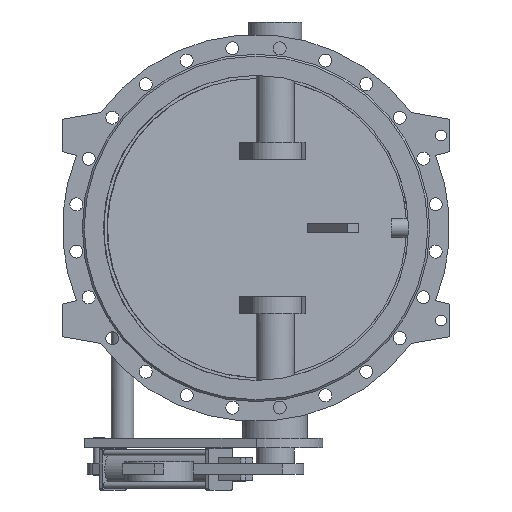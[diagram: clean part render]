
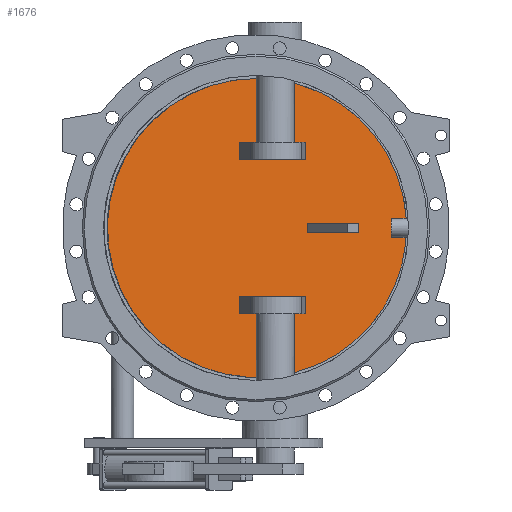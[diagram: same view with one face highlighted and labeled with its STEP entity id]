
A CAD part, front view. The second image highlights one B-rep face of the part: STEP entity #1676.
In plain terms, the highlighted planar face has unit normal (0.131, -0.991, 0).
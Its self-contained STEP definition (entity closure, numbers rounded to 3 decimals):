
#1676=ADVANCED_FACE('',(#3733,#3735,#3737,#3739),#3741,.T.);
#3733=FACE_BOUND('',#3734,.T.);
#3734=EDGE_LOOP('',(#4888));
#3735=FACE_BOUND('',#3736,.T.);
#3736=EDGE_LOOP('',(#4889,#4890,#4891,#4892));
#3737=FACE_BOUND('',#3738,.T.);
#3738=EDGE_LOOP('',(#4893,#4894,#4895,#4896));
#3739=FACE_BOUND('',#3740,.T.);
#3740=EDGE_LOOP('',(#4897,#4898,#4899,#4900));
#3741=PLANE('',#3742);
#3742=AXIS2_PLACEMENT_3D('',#3743,#3744,#3745);
#3743=CARTESIAN_POINT('',(-1.272,9.66,0.));
#3744=DIRECTION('',(0.131,-0.991,0.));
#3745=DIRECTION('',(0.,0.,-1.));
#4888=ORIENTED_EDGE('',*,*,#5404,.T.);
#4889=ORIENTED_EDGE('',*,*,#5421,.F.);
#4890=ORIENTED_EDGE('',*,*,#5422,.F.);
#4891=ORIENTED_EDGE('',*,*,#5423,.F.);
#4892=ORIENTED_EDGE('',*,*,#5424,.F.);
#4893=ORIENTED_EDGE('',*,*,#5425,.F.);
#4894=ORIENTED_EDGE('',*,*,#5426,.F.);
#4895=ORIENTED_EDGE('',*,*,#5427,.F.);
#4896=ORIENTED_EDGE('',*,*,#5428,.F.);
#4897=ORIENTED_EDGE('',*,*,#5429,.F.);
#4898=ORIENTED_EDGE('',*,*,#5430,.F.);
#4899=ORIENTED_EDGE('',*,*,#5431,.F.);
#4900=ORIENTED_EDGE('',*,*,#5432,.F.);
#5404=EDGE_CURVE('',#6178,#6178,#6179,.T.);
#5421=EDGE_CURVE('',#6212,#6213,#6214,.T.);
#5422=EDGE_CURVE('',#6215,#6212,#6216,.F.);
#5423=EDGE_CURVE('',#6217,#6215,#6218,.T.);
#5424=EDGE_CURVE('',#6213,#6217,#6219,.T.);
#5425=EDGE_CURVE('',#6220,#6221,#6222,.F.);
#5426=EDGE_CURVE('',#6223,#6220,#6224,.T.);
#5427=EDGE_CURVE('',#6225,#6223,#6226,.T.);
#5428=EDGE_CURVE('',#6221,#6225,#6227,.T.);
#5429=EDGE_CURVE('',#6228,#6229,#6230,.T.);
#5430=EDGE_CURVE('',#6231,#6228,#6232,.F.);
#5431=EDGE_CURVE('',#6233,#6231,#6234,.F.);
#5432=EDGE_CURVE('',#6229,#6233,#6235,.F.);
#6178=VERTEX_POINT('',#9455);
#6179=B_SPLINE_CURVE_WITH_KNOTS('',3,
(#9456,#9457,#9458,#9459,#9460,#9461,#9462,#9463,#9464,#9465,#9466,#9467,#9468,#9469,
#9470,#9471,#9472,#9473,#9474,#9475,#9476,#9477,#9478,#9479,#9480,#9481,#9482,#9483,
#9484,#9485,#9486,#9487,#9488,#9489,#9490,#9491,#9492,#9493,#9494,#9495,#9496,#9497,
#9498,#9499,#9500,#9501,#9502,#9503,#9504,#9505,#9506),
.UNSPECIFIED.,.T.,.F.,
(4,1,1,1,1,1,1,1,1,1,1,1,1,1,1,1,1,1,1,1,1,1,1,1,1,1,1,1,1,1,1,1,1,1,1,1,1,1,1,1,
1,1,1,1,1,1,1,1,4),
(0.,0.021,0.042,0.063,0.084,
0.105,0.126,0.147,0.168,0.189,
0.211,0.232,0.253,0.274,0.295,
0.316,0.337,0.358,0.379,0.4,
0.421,0.442,0.463,0.484,0.505,
0.527,0.548,0.569,0.59,0.611,
0.632,0.653,0.674,0.695,0.716,
0.737,0.758,0.779,0.8,0.821,
0.842,0.864,0.885,0.906,0.927,
0.948,0.969,0.986,1.),
.UNSPECIFIED.);
#6212=VERTEX_POINT('',#10017);
#6213=VERTEX_POINT('',#10018);
#6214=LINE('',#10019,#10020);
#6215=VERTEX_POINT('',#10022);
#6216=LINE('',#10023,#10024);
#6217=VERTEX_POINT('',#10026);
#6218=LINE('',#10027,#10028);
#6219=LINE('',#10030,#10031);
#6220=VERTEX_POINT('',#10033);
#6221=VERTEX_POINT('',#10034);
#6222=LINE('',#10035,#10036);
#6223=VERTEX_POINT('',#10038);
#6224=LINE('',#10039,#10040);
#6225=VERTEX_POINT('',#10042);
#6226=LINE('',#10043,#10044);
#6227=LINE('',#10046,#10047);
#6228=VERTEX_POINT('',#10049);
#6229=VERTEX_POINT('',#10050);
#6230=LINE('',#10051,#10052);
#6231=VERTEX_POINT('',#10054);
#6232=LINE('',#10055,#10056);
#6233=VERTEX_POINT('',#10058);
#6234=LINE('',#10059,#10060);
#6235=LINE('',#10062,#10063);
#9455=CARTESIAN_POINT('',(2.611,10.171,392.));
#9456=CARTESIAN_POINT('',(2.611,10.171,392.));
#9457=CARTESIAN_POINT('',(-14.616,7.903,392.));
#9458=CARTESIAN_POINT('',(-49.11,3.362,389.724));
#9459=CARTESIAN_POINT('',(-100.015,-3.34,379.519));
#9460=CARTESIAN_POINT('',(-149.198,-9.815,362.666));
#9461=CARTESIAN_POINT('',(-195.753,-15.944,339.455));
#9462=CARTESIAN_POINT('',(-238.826,-21.615,310.311));
#9463=CARTESIAN_POINT('',(-277.674,-26.729,275.739));
#9464=CARTESIAN_POINT('',(-311.615,-31.197,236.349));
#9465=CARTESIAN_POINT('',(-340.058,-34.942,192.829));
#9466=CARTESIAN_POINT('',(-362.508,-37.898,145.94));
#9467=CARTESIAN_POINT('',(-378.573,-40.013,96.504));
#9468=CARTESIAN_POINT('',(-387.975,-41.25,45.382));
#9469=CARTESIAN_POINT('',(-390.549,-41.589,-6.533));
#9470=CARTESIAN_POINT('',(-386.251,-41.023,-58.334));
#9471=CARTESIAN_POINT('',(-375.155,-39.563,-109.116));
#9472=CARTESIAN_POINT('',(-357.454,-37.232,-157.994));
#9473=CARTESIAN_POINT('',(-333.457,-34.073,-204.112));
#9474=CARTESIAN_POINT('',(-303.58,-30.14,-246.666));
#9475=CARTESIAN_POINT('',(-268.345,-25.501,-284.909));
#9476=CARTESIAN_POINT('',(-228.365,-20.237,-318.171));
#9477=CARTESIAN_POINT('',(-184.34,-14.441,-345.87));
#9478=CARTESIAN_POINT('',(-137.039,-8.214,-367.518));
#9479=CARTESIAN_POINT('',(-87.29,-1.665,-382.734));
#9480=CARTESIAN_POINT('',(-35.965,5.093,-391.251));
#9481=CARTESIAN_POINT('',(16.036,11.939,-392.918));
#9482=CARTESIAN_POINT('',(67.801,18.754,-387.706));
#9483=CARTESIAN_POINT('',(118.423,25.418,-375.708));
#9484=CARTESIAN_POINT('',(167.014,31.815,-357.135));
#9485=CARTESIAN_POINT('',(212.723,37.833,-332.314));
#9486=CARTESIAN_POINT('',(254.751,43.366,-301.681));
#9487=CARTESIAN_POINT('',(292.365,48.318,-265.774));
#9488=CARTESIAN_POINT('',(324.907,52.602,-225.222));
#9489=CARTESIAN_POINT('',(351.811,56.144,-180.735));
#9490=CARTESIAN_POINT('',(372.607,58.882,-133.092));
#9491=CARTESIAN_POINT('',(386.935,60.768,-83.125));
#9492=CARTESIAN_POINT('',(394.544,61.77,-31.706));
#9493=CARTESIAN_POINT('',(395.302,61.87,20.267));
#9494=CARTESIAN_POINT('',(389.195,61.066,71.886));
#9495=CARTESIAN_POINT('',(376.331,59.372,122.251));
#9496=CARTESIAN_POINT('',(356.932,56.818,170.481));
#9497=CARTESIAN_POINT('',(331.336,53.449,215.733));
#9498=CARTESIAN_POINT('',(299.989,49.322,257.217));
#9499=CARTESIAN_POINT('',(263.436,44.509,294.208));
#9500=CARTESIAN_POINT('',(222.326,39.097,326.045));
#9501=CARTESIAN_POINT('',(177.427,33.186,352.15));
#9502=CARTESIAN_POINT('',(129.39,26.862,372.154));
#9503=CARTESIAN_POINT('',(82.011,20.624,384.863));
#9504=CARTESIAN_POINT('',(39.415,15.016,390.9));
#9505=CARTESIAN_POINT('',(13.859,11.652,392.));
#9506=CARTESIAN_POINT('',(2.611,10.171,392.));
#10017=CARTESIAN_POINT('',(249.016,42.611,-12.5));
#10018=CARTESIAN_POINT('',(249.016,42.611,12.5));
#10019=CARTESIAN_POINT('',(249.016,42.611,-12.5));
#10020=VECTOR('',#10021,1.);
#10021=DIRECTION('',(0.,0.,1.));
#10022=CARTESIAN_POINT('',(135.,27.601,-12.5));
#10023=CARTESIAN_POINT('',(249.016,42.611,-12.5));
#10024=VECTOR('',#10025,1.);
#10025=DIRECTION('',(-0.991,-0.131,0.));
#10026=CARTESIAN_POINT('',(135.,27.601,12.5));
#10027=CARTESIAN_POINT('',(135.,27.601,12.5));
#10028=VECTOR('',#10029,1.);
#10029=DIRECTION('',(0.,0.,-1.));
#10030=CARTESIAN_POINT('',(249.016,42.611,12.5));
#10031=VECTOR('',#10032,1.);
#10032=DIRECTION('',(-0.991,-0.131,0.));
#10033=CARTESIAN_POINT('',(-44.007,4.034,-225.));
#10034=CARTESIAN_POINT('',(129.407,26.864,-225.));
#10035=CARTESIAN_POINT('',(129.407,26.864,-225.));
#10036=VECTOR('',#10037,1.);
#10037=DIRECTION('',(-0.991,-0.131,0.));
#10038=CARTESIAN_POINT('',(-44.007,4.034,-180.));
#10039=CARTESIAN_POINT('',(-44.007,4.034,-180.));
#10040=VECTOR('',#10041,1.);
#10041=DIRECTION('',(0.,0.,-1.));
#10042=CARTESIAN_POINT('',(129.407,26.864,-180.));
#10043=CARTESIAN_POINT('',(129.407,26.864,-180.));
#10044=VECTOR('',#10045,1.);
#10045=DIRECTION('',(-0.991,-0.131,0.));
#10046=CARTESIAN_POINT('',(129.407,26.864,-225.));
#10047=VECTOR('',#10048,1.);
#10048=DIRECTION('',(0.,0.,1.));
#10049=CARTESIAN_POINT('',(129.407,26.864,225.));
#10050=CARTESIAN_POINT('',(-44.007,4.034,225.));
#10051=CARTESIAN_POINT('',(129.407,26.864,225.));
#10052=VECTOR('',#10053,1.);
#10053=DIRECTION('',(-0.991,-0.131,0.));
#10054=CARTESIAN_POINT('',(129.407,26.864,180.));
#10055=CARTESIAN_POINT('',(129.407,26.864,225.));
#10056=VECTOR('',#10057,1.);
#10057=DIRECTION('',(0.,0.,-1.));
#10058=CARTESIAN_POINT('',(-44.007,4.034,180.));
#10059=CARTESIAN_POINT('',(129.407,26.864,180.));
#10060=VECTOR('',#10061,1.);
#10061=DIRECTION('',(-0.991,-0.131,0.));
#10062=CARTESIAN_POINT('',(-44.007,4.034,180.));
#10063=VECTOR('',#10064,1.);
#10064=DIRECTION('',(0.,0.,1.));
